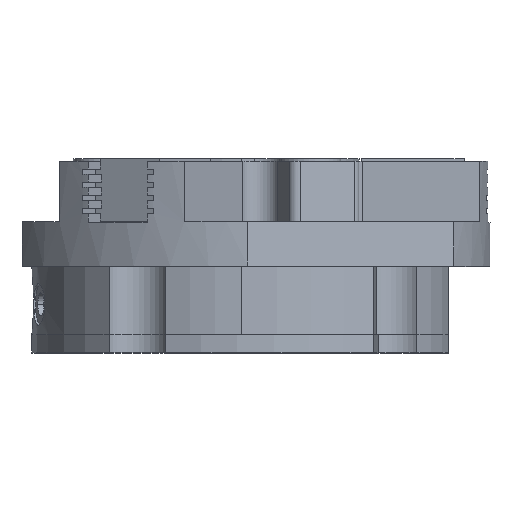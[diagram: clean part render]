
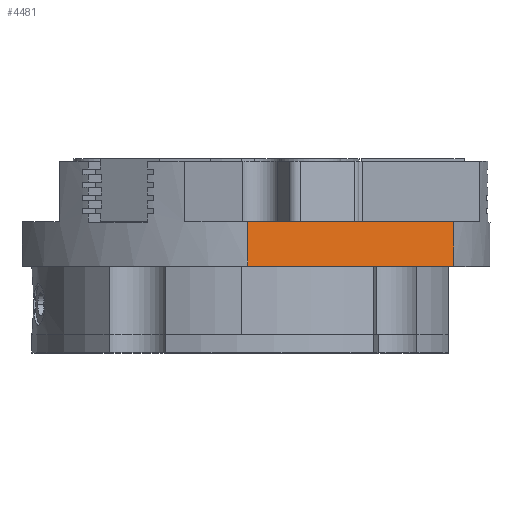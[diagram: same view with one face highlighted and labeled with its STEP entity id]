
A CAD part, top view. The second image highlights one B-rep face of the part: STEP entity #4481.
In plain terms, the highlighted planar face has unit normal (0.5, 0, 0.866) as drawn and (-0.5, 0, 0.866) by its records, which use the part's own axes.
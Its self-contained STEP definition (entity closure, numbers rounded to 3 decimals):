
#860 = VECTOR ( 'NONE', #14433, 1000. ) ;
#877 = ORIENTED_EDGE ( 'NONE', *, *, #9714, .F. ) ;
#902 = LINE ( 'NONE', #1061, #10725 ) ;
#916 = CARTESIAN_POINT ( 'NONE',  ( -80.987, 23., 49.659 ) ) ;
#1061 = CARTESIAN_POINT ( 'NONE',  ( -80.987, 40., 49.659 ) ) ;
#1499 = EDGE_LOOP ( 'NONE', ( #10757, #8744, #10404, #877 ) ) ;
#1690 = LINE ( 'NONE', #3494, #4445 ) ;
#1727 = CARTESIAN_POINT ( 'NONE',  ( -123.091, 189., 25.351 ) ) ;
#1877 = VERTEX_POINT ( 'NONE', #7593 ) ;
#2498 = CARTESIAN_POINT ( 'NONE',  ( -2.513, 66., 94.967 ) ) ;
#2914 = PLANE ( 'NONE',  #5524 ) ;
#3494 = CARTESIAN_POINT ( 'NONE',  ( -2.513, 23., 94.967 ) ) ;
#4445 = VECTOR ( 'NONE', #9309, 1000. ) ;
#4481 = ADVANCED_FACE ( 'NONE', ( #6267 ), #2914, .F. ) ;
#4857 = CARTESIAN_POINT ( 'NONE',  ( -2.513, 40., 94.967 ) ) ;
#4879 = DIRECTION ( 'NONE',  ( 0., -1., 0. ) ) ;
#5524 = AXIS2_PLACEMENT_3D ( 'NONE', #1727, #9850, #8842 ) ;
#5771 = DIRECTION ( 'NONE',  ( 0.866, 0., 0.5 ) ) ;
#5968 = LINE ( 'NONE', #13207, #860 ) ;
#6036 = EDGE_CURVE ( 'NONE', #9325, #7951, #902, .T. ) ;
#6267 = FACE_OUTER_BOUND ( 'NONE', #1499, .T. ) ;
#6812 = LINE ( 'NONE', #2498, #8971 ) ;
#7260 = EDGE_CURVE ( 'NONE', #12212, #9325, #5968, .T. ) ;
#7593 = CARTESIAN_POINT ( 'NONE',  ( -2.513, 23., 94.967 ) ) ;
#7951 = VERTEX_POINT ( 'NONE', #4857 ) ;
#8744 = ORIENTED_EDGE ( 'NONE', *, *, #6036, .F. ) ;
#8842 = DIRECTION ( 'NONE',  ( -0.866, 0., -0.5 ) ) ;
#8971 = VECTOR ( 'NONE', #4879, 1000. ) ;
#9309 = DIRECTION ( 'NONE',  ( -0.866, 0., -0.5 ) ) ;
#9325 = VERTEX_POINT ( 'NONE', #14606 ) ;
#9714 = EDGE_CURVE ( 'NONE', #1877, #12212, #1690, .T. ) ;
#9850 = DIRECTION ( 'NONE',  ( 0.5, 0., -0.866 ) ) ;
#10404 = ORIENTED_EDGE ( 'NONE', *, *, #7260, .F. ) ;
#10725 = VECTOR ( 'NONE', #5771, 1000. ) ;
#10757 = ORIENTED_EDGE ( 'NONE', *, *, #13929, .F. ) ;
#12212 = VERTEX_POINT ( 'NONE', #916 ) ;
#13207 = CARTESIAN_POINT ( 'NONE',  ( -80.987, 66., 49.659 ) ) ;
#13929 = EDGE_CURVE ( 'NONE', #7951, #1877, #6812, .T. ) ;
#14433 = DIRECTION ( 'NONE',  ( 0., 1., 0. ) ) ;
#14606 = CARTESIAN_POINT ( 'NONE',  ( -80.987, 40., 49.659 ) ) ;
